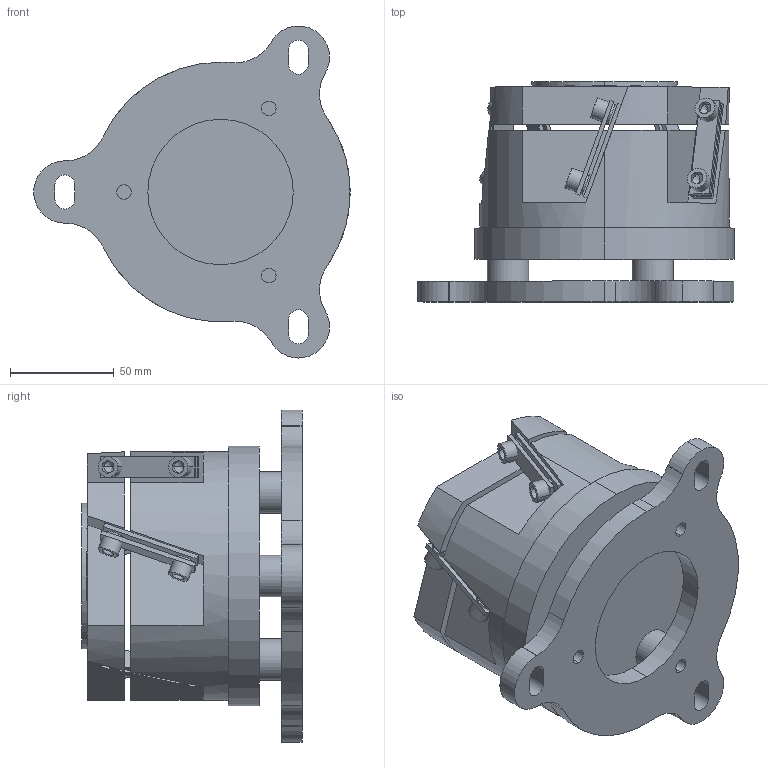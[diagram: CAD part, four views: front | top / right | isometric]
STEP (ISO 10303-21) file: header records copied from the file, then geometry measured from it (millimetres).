
FILE_DESCRIPTION(/* description */ (''),/* implementation_level */ '2;1');
FILE_NAME(/* name */ 'JMG120.stp',/* time_stamp */ '2025-07-11T20:18:21+08:00',/* author */ (''),/* organization */ (''),/* preprocessor_version */ 'ST-DEVELOPER v18.102',/* originating_system */ 'SIEMENS PLM Software NX2206.1700',/* authorisation */ '');
FILE_SCHEMA (('AP203_CONFIGURATION_CONTROLLED_3D_DESIGN_OF_MECHANICAL_PARTS_AND_ASSEMBLIES_MIM_LF { 1 0 10303 403 2 1 2}'));
Length unit declared in the file: millimetre
Products named in the file (1): JMG120_objects
Bounding box: 152.5 x 106.01 x 159.9 mm (x, y, z)
Volume: 947365.5 mm3; surface area: 156490.6 mm2
Topology: 28 solids, 28 shells, 252 faces, 566 edges, 361 vertices
Faces by surface type: plane 134, cylinder 96, cone 22
Full cylindrical faces by diameter (mm): 20 x3
Entity records: 7208 total; most frequent: DIRECTION 1250, CARTESIAN_POINT 1202, ORIENTED_EDGE 1098, EDGE_CURVE 549, AXIS2_PLACEMENT_3D 459, VERTEX_POINT 367, LINE 332, VECTOR 332
